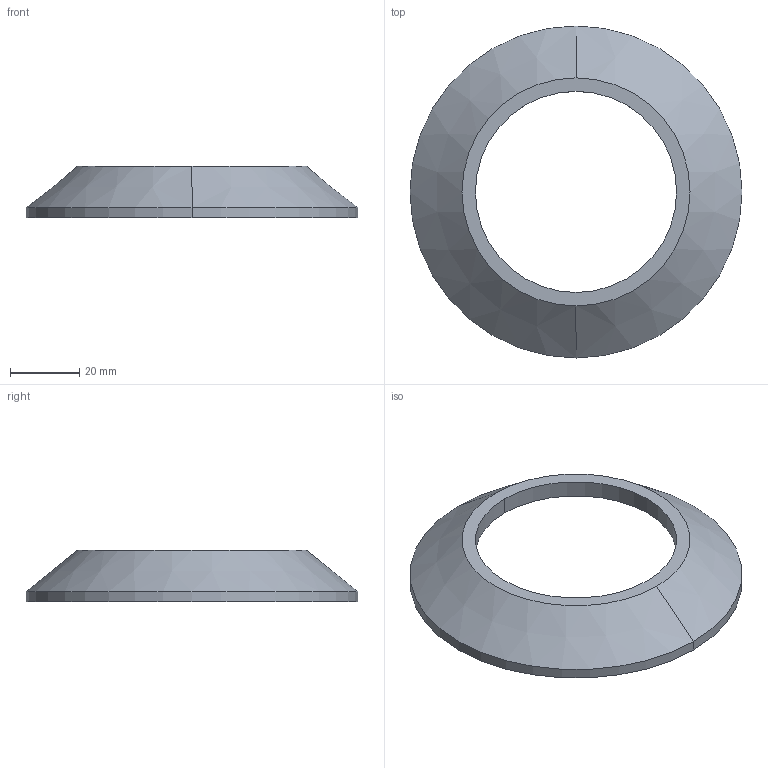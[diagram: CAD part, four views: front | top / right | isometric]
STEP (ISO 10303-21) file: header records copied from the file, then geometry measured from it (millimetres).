
FILE_DESCRIPTION(/* description */ ('VariCAD 2010-3.03 AP-214'),/* implementation_level */ '2;1');
FILE_NAME(/* name */ '0353-19-62',/* time_stamp */ '2011-01-19T14:09:14-07:00',/* author */ (''),/* organization */ (''),/* preprocessor_version */ 'ST-DEVELOPER v12',/* originating_system */ 'VariCAD 2010-3.03; kernel version (20100102)',/* authorisation */ '');
FILE_SCHEMA (('AUTOMOTIVE_DESIGN'));
Length unit declared in the file: millimetre
Products named in the file (1): Part
Bounding box: 95.9 x 95.9 x 15 mm (x, y, z)
Volume: 25750.6 mm3; surface area: 12672.7 mm2
Topology: 1 solids, 1 shells, 10 faces, 20 edges, 12 vertices
Faces by surface type: cylinder 4, cone 4, plane 2
Entity records: 295 total; most frequent: DIRECTION 56, CARTESIAN_POINT 44, ORIENTED_EDGE 40, AXIS2_PLACEMENT_3D 24, EDGE_CURVE 20, EDGE_LOOP 12, CIRCLE 12, VERTEX_POINT 12
